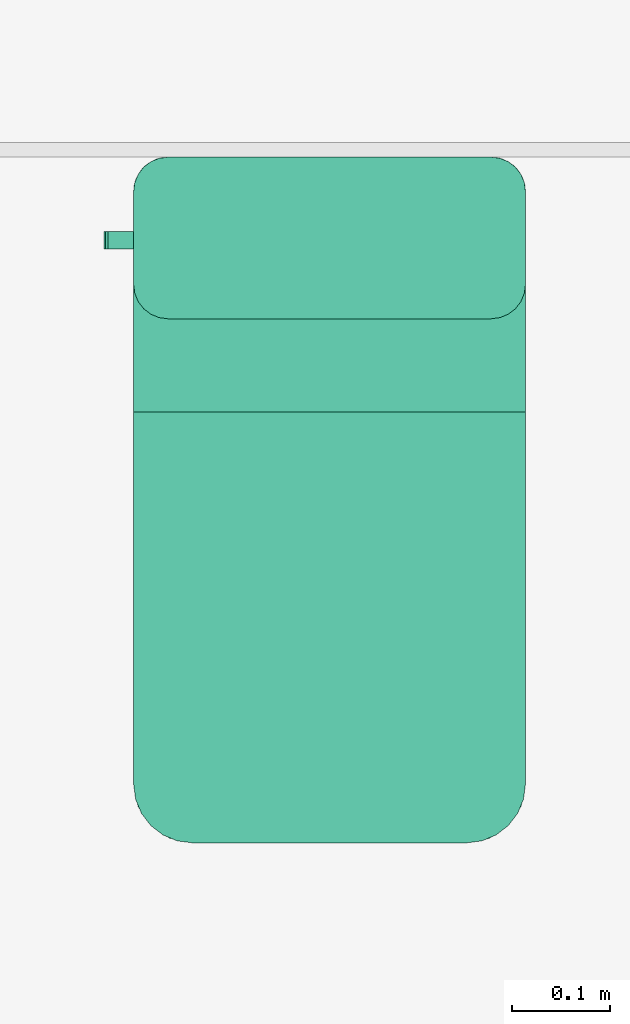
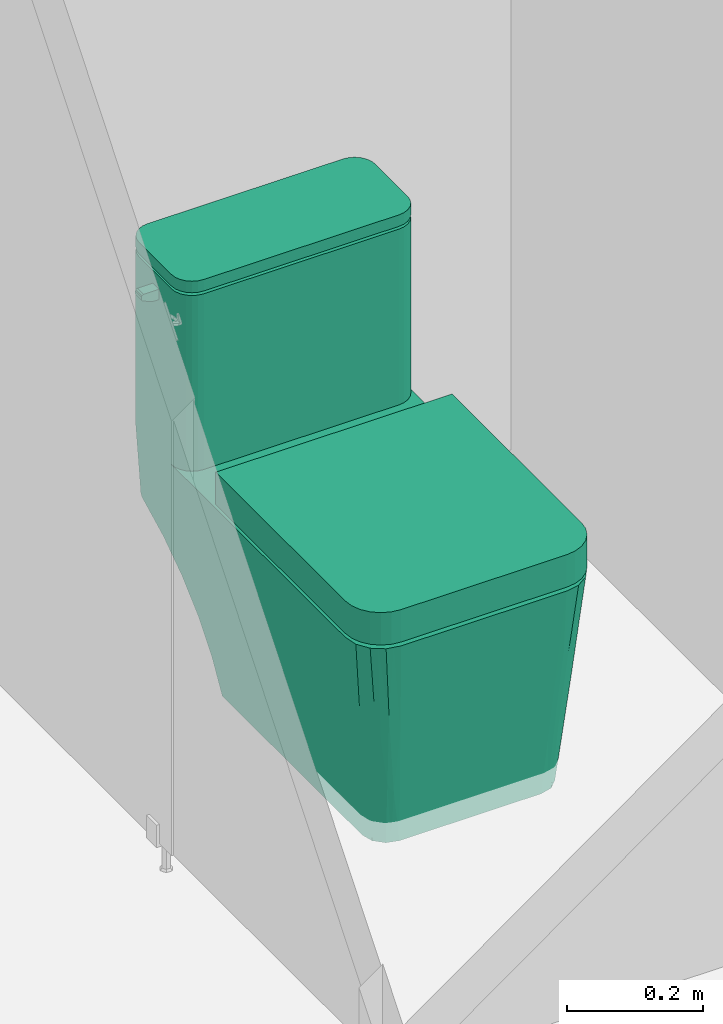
# One storey, part 75 of 81: 1 flow terminal.
"""IFC2X3 building model written with IfcOpenShell, lengths in millimetres."""

from ifc_helpers import new_model, entity, si_unit, converted_unit, derived_unit, direction, frame, origin, place, context, subcontext, project, spatial, faceted_brep, source, transform, mapped, material, material_list, type_object, type_shapes, element, save


model = new_model("IFC2X3")

# Units and contexts
model_context = context("Model", 3, precision=0.01, world=origin(), true_north=direction((6.123031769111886e-17, 1.0)))
body_context = subcontext(model_context, "Body", "Model", "MODEL_VIEW")
ifc_project = project(units=[si_unit("LENGTHUNIT", "METRE", prefix="MILLI"), si_unit("AREAUNIT", "SQUARE_METRE"), si_unit("VOLUMEUNIT", "CUBIC_METRE"), converted_unit("PLANEANGLEUNIT", "DEGREE", entity("IfcRatioMeasure", 0.017453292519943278), si_unit("PLANEANGLEUNIT", "RADIAN"), dimensions=[0, 0, 0, 0, 0, 0, 0]), si_unit("MASSUNIT", "GRAM", prefix="KILO"), derived_unit("MASSDENSITYUNIT", [(si_unit("MASSUNIT", "GRAM", prefix="KILO"), 1), (si_unit("LENGTHUNIT", "METRE"), -3)]), derived_unit("MOMENTOFINERTIAUNIT", [(si_unit("LENGTHUNIT", "METRE"), 4)]), si_unit("TIMEUNIT", "SECOND"), si_unit("FREQUENCYUNIT", "HERTZ"), si_unit("THERMODYNAMICTEMPERATUREUNIT", "DEGREE_CELSIUS"), derived_unit("THERMALTRANSMITTANCEUNIT", [(si_unit("MASSUNIT", "GRAM", prefix="KILO"), 1), (si_unit("THERMODYNAMICTEMPERATUREUNIT", "KELVIN"), -1), (si_unit("TIMEUNIT", "SECOND"), -3)]), derived_unit("VOLUMETRICFLOWRATEUNIT", [(si_unit("LENGTHUNIT", "METRE"), 3), (si_unit("TIMEUNIT", "SECOND"), -1)]), derived_unit("MASSFLOWRATEUNIT", [(si_unit("MASSUNIT", "GRAM", prefix="KILO"), 1), (si_unit("TIMEUNIT", "SECOND"), -1)]), derived_unit("ROTATIONALFREQUENCYUNIT", [(si_unit("TIMEUNIT", "SECOND"), -1)]), si_unit("ELECTRICCURRENTUNIT", "AMPERE"), si_unit("ELECTRICVOLTAGEUNIT", "VOLT"), si_unit("POWERUNIT", "WATT"), si_unit("FORCEUNIT", "NEWTON", prefix="KILO"), si_unit("ILLUMINANCEUNIT", "LUX"), si_unit("LUMINOUSFLUXUNIT", "LUMEN"), si_unit("LUMINOUSINTENSITYUNIT", "CANDELA"), derived_unit("USERDEFINED", [(si_unit("MASSUNIT", "GRAM", prefix="KILO"), -1), (si_unit("LENGTHUNIT", "METRE"), -2), (si_unit("TIMEUNIT", "SECOND"), 3), (si_unit("LUMINOUSFLUXUNIT", "LUMEN"), 1)]), derived_unit("SOUNDPOWERUNIT", [(si_unit("MASSUNIT", "GRAM", prefix="KILO"), 1), (si_unit("LENGTHUNIT", "METRE"), 2), (si_unit("TIMEUNIT", "SECOND"), -3)]), derived_unit("SOUNDPRESSUREUNIT", [(si_unit("MASSUNIT", "GRAM", prefix="KILO"), 1), (si_unit("LENGTHUNIT", "METRE"), -1), (si_unit("TIMEUNIT", "SECOND"), -2)]), derived_unit("LINEARVELOCITYUNIT", [(si_unit("LENGTHUNIT", "METRE"), 1), (si_unit("TIMEUNIT", "SECOND"), -1)]), si_unit("PRESSUREUNIT", "PASCAL"), derived_unit("USERDEFINED", [(si_unit("LENGTHUNIT", "METRE"), -2), (si_unit("MASSUNIT", "GRAM", prefix="KILO"), 1), (si_unit("TIMEUNIT", "SECOND"), -2)]), derived_unit("LINEARFORCEUNIT", [(si_unit("MASSUNIT", "GRAM", prefix="KILO"), 1), (si_unit("LENGTHUNIT", "METRE"), 1), (si_unit("TIMEUNIT", "SECOND"), -2), (si_unit("LENGTHUNIT", "METRE"), -1)]), derived_unit("PLANARFORCEUNIT", [(si_unit("MASSUNIT", "GRAM", prefix="KILO"), 1), (si_unit("LENGTHUNIT", "METRE"), 1), (si_unit("TIMEUNIT", "SECOND"), -2), (si_unit("LENGTHUNIT", "METRE"), -2)])], contexts=[model_context])

# Site, building, storey, space
site_placement = place(None, frame((-14167.972527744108, -657.2125860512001, 0.0)))
site = spatial("IfcSite", under=ifc_project, at=site_placement, Name="Default", CompositionType="ELEMENT")
building_placement = place(site_placement, origin())
building = spatial("IfcBuilding", under=site, at=building_placement, Name="Sample Building", CompositionType="ELEMENT")
storey_placement = place(building_placement, frame((0.0, 0.0, 13400.0)))
storey = spatial("IfcBuildingStorey", under=building, at=storey_placement, Name="지상 4층", CompositionType="ELEMENT", Elevation=13400.00000000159)
space_placement = place(storey_placement, origin())
space = spatial("IfcSpace", under=storey, at=space_placement, Name="221", CompositionType="ELEMENT", InteriorOrExteriorSpace="INTERNAL")

# Flow terminal
ifc_material_1 = material(Name="KBIMS-스테인리스 스틸_도금")
ifc_material_2 = material(Name="KBIMS-도기")
ifc_material_list_1 = material_list([ifc_material_1, ifc_material_2])
ifc_material_list_2 = material_list([ifc_material_1, ifc_material_2, ifc_material_2])
distribution_element_type = type_object("IfcDistributionElementType", Name="PF127-서양식 탱크일체형:PF127-서양식 탱크일체형", material=ifc_material_list_2)
shared_shape = source(origin(), body_context, "Body", "Brep", [
    faceted_brep([(-200.0, -93.78427766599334, 671.547634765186), (-226.3198216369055, -93.78427766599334, 671.5476347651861), (-228.9221007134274, -93.78427766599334, 670.469735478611), (-230.0, -93.78427766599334, 667.8674564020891), (-230.0, -93.78427766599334, 663.5153317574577), (-229.51628854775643, -93.78427766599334, 661.8557929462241), (-228.21666089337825, -93.78427766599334, 660.71605008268), (-215.9758797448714, -93.78427766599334, 655.0080800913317), (-211.766557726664, -93.78427766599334, 653.5792078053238), (-207.34774888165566, -93.78427766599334, 653.095269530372), (-200.0, -93.78427766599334, 653.095269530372), (-230.0, -75.66503821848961, 663.5153317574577), (-230.0, -75.66503821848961, 667.8674564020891), (-228.9221007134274, -75.66503821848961, 670.469735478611), (-226.31982163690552, -75.66503821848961, 671.5476347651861), (-200.0, -75.66503821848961, 671.547634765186), (-200.0, -75.66503821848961, 653.095269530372), (-207.34774888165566, -75.66503821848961, 653.095269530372), (-211.766557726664, -75.66503821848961, 653.5792078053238), (-215.97587974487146, -75.66503821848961, 655.0080800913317), (-228.21666089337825, -75.66503821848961, 660.71605008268), (-229.51628854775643, -75.66503821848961, 661.8557929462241)], [[[0, 1, 2, 3, 4, 5, 6, 7, 8, 9, 10]], [[11, 12, 13, 14, 15, 16, 17, 18, 19, 20, 21]], [[1, 14, 13, 2]], [[13, 12, 3, 2]], [[4, 3, 12, 11]], [[4, 11, 21, 5]], [[21, 20, 6, 5]], [[7, 6, 20, 19]], [[7, 19, 18, 8]], [[18, 17, 9, 8]], [[10, 9, 17, 16]], [[0, 10, 16, 15]], [[1, 0, 15, 14]]]),
    faceted_brep([(140.0, -700.0, 445.0), (155.52914270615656, -697.9555495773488, 445.0), (170.0, -691.9615242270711, 445.0), (182.42640687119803, -682.4264068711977, 445.0), (191.96152422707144, -670.0, 445.0), (197.9555495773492, -655.5291427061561, 445.0), (200.0, -640.0, 445.0), (200.0, -260.0, 445.0), (-200.0, -260.0, 445.0), (-200.0, -640.0, 445.0), (-197.95554957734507, -655.5291427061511, 445.0), (-191.96152422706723, -670.0, 445.0), (-182.42640687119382, -682.4264068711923, 445.0), (-170.0, -691.9615242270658, 445.0), (-155.52914270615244, -697.9555495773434, 445.0), (-140.0, -700.0, 445.0), (-200.0, -640.0, 386.96747142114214), (-200.0, -260.0, 386.96747142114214), (200.0, -260.0, 386.96747142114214), (200.0, -640.0, 386.96747142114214), (197.9555495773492, -655.5291427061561, 386.96747142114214), (191.96152422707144, -670.0, 386.96747142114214), (182.42640687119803, -682.4264068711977, 386.96747142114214), (170.0, -691.9615242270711, 386.96747142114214), (155.52914270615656, -697.9555495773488, 386.96747142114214), (140.0, -700.0, 386.96747142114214), (-140.0, -700.0, 386.96747142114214), (-155.52914270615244, -697.9555495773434, 386.96747142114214), (-170.0, -691.9615242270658, 386.96747142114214), (-182.42640687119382, -682.4264068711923, 386.96747142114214), (-191.96152422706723, -670.0, 386.96747142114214), (-197.95554957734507, -655.5291427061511, 386.96747142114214)], [[[0, 1, 2, 3, 4, 5, 6, 7, 8, 9, 10, 11, 12, 13, 14, 15]], [[16, 17, 18, 19, 20, 21, 22, 23, 24, 25, 26, 27, 28, 29, 30, 31]], [[1, 24, 23, 2]], [[2, 23, 22, 3]], [[25, 24, 1, 0]], [[4, 21, 20, 5]], [[5, 20, 19, 6]], [[3, 22, 21, 4]], [[7, 6, 19, 18]], [[8, 7, 18, 17]], [[9, 8, 17, 16]], [[10, 31, 30, 11]], [[11, 30, 29, 12]], [[9, 16, 31, 10]], [[13, 28, 27, 14]], [[14, 27, 26, 15]], [[12, 29, 28, 13]], [[0, 15, 26, 25]]]),
    faceted_brep([(165.0, 0.0, 694.4321747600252), (165.0, 0.0, 380.0), (164.13685378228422, 0.0, 314.40088745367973), (163.42105263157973, 0.0, 260.0), (-163.42105263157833, 0.0, 260.0), (-164.1368541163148, 0.0, 314.40091283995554), (-165.0, 0.0, 380.0), (-165.0, 0.0, 694.4321747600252), (-165.0, 0.0, 720.0), (165.0, 0.0, 720.0), (165.0, 0.0, 699.4321747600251), (-165.0, 0.0, 699.4321747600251), (200.0, -35.0, 694.4321747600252), (200.0, -130.0, 694.4321747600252), (200.0, -130.0, 380.0), (200.0, -35.0, 380.0), (200.0, -35.0, 720.0), (200.0, -130.0, 720.0), (200.0, -130.0, 699.4321747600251), (200.0, -35.0, 699.4321747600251), (-198.80740392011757, -139.05866657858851, 694.4321747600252), (-198.80740392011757, -139.0586665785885, 380.0), (-195.31088913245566, -147.5000000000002, 380.0), (-195.31088913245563, -147.50000000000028, 694.4321747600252), (-198.80740392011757, -139.05866657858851, 699.4321747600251), (-195.31088913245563, -147.50000000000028, 699.4321747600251), (-195.3108891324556, -147.50000000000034, 720.0), (-198.80740392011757, -139.05866657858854, 720.0), (-189.74873734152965, -154.74873734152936, 380.0), (-189.74873734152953, -154.74873734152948, 694.4321747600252), (-189.74873734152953, -154.74873734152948, 699.4321747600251), (-189.74873734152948, -154.74873734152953, 720.0), (-200.0, -130.0, 380.0), (-200.0, -130.0, 694.4321747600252), (-200.0, -130.0, 699.4321747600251), (-200.0, -130.0, 720.0), (-182.5000000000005, -160.31088913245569, 694.4321747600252), (-182.50000000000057, -160.31088913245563, 380.0), (-174.05866657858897, -163.80740392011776, 380.0), (-174.05866657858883, -163.8074039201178, 694.4321747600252), (-174.05866657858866, -163.80740392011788, 720.0), (-182.50000000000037, -160.31088913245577, 720.0), (-182.5000000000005, -160.31088913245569, 699.4321747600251), (-174.05866657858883, -163.8074039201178, 699.4321747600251), (-165.0, -165.0, 380.0), (-165.0, -165.0, 694.4321747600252), (-165.0, -165.0, 720.0), (-165.0, -165.0, 699.4321747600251), (165.0, -165.0, 694.4321747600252), (165.0, -165.0, 380.0), (165.0, -165.0, 720.0), (165.0, -165.0, 699.4321747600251), (-200.0, -35.0, 694.4321747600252), (-200.0, -35.0, 380.0), (-200.0, -35.0, 720.0), (-200.0, -35.0, 699.4321747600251), (198.80740392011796, -25.941333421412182, 699.4321747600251), (195.310889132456, -17.500000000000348, 699.4321747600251), (195.31088913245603, -17.500000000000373, 720.0), (198.80740392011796, -25.94133342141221, 720.0), (189.74873734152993, -10.251262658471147, 720.0), (189.74873734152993, -10.251262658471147, 699.4321747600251), (174.05866657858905, -1.1925960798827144, 699.4321747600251), (174.0586665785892, -1.192596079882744, 720.0), (182.50000000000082, -4.68911086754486, 699.4321747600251), (182.50000000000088, -4.68911086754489, 720.0), (174.05866657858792, -163.80740392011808, 694.4321747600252), (174.05866657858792, -163.80740392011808, 380.0), (182.49999999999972, -160.31088913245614, 380.0), (182.49999999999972, -160.31088913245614, 694.4321747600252), (174.05866657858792, -163.80740392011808, 699.4321747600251), (182.49999999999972, -160.31088913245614, 699.4321747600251), (182.5000000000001, -160.31088913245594, 720.0), (174.0586665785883, -163.80740392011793, 720.0), (189.74873734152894, -154.74873734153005, 380.0), (189.74873734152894, -154.74873734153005, 694.4321747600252), (189.74873734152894, -154.74873734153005, 699.4321747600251), (189.74873734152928, -154.74873734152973, 720.0), (195.31088913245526, -147.50000000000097, 694.4321747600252), (195.31088913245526, -147.50000000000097, 380.0), (198.8074039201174, -139.05866657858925, 380.0), (198.8074039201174, -139.05866657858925, 694.4321747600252), (195.31088913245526, -147.50000000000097, 699.4321747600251), (198.8074039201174, -139.05866657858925, 699.4321747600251), (198.80740392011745, -139.0586665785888, 720.0), (195.3108891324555, -147.50000000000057, 720.0), (-174.0586665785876, -1.1925960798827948, 720.0), (-174.0586665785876, -1.1925960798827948, 699.4321747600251), (-182.49999999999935, -4.689110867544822, 720.0), (-182.49999999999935, -4.689110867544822, 699.4321747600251), (-189.7487373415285, -10.251262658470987, 720.0), (-189.7487373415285, -10.251262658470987, 699.4321747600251), (-198.8074039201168, -25.941333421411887, 720.0), (-195.31088913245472, -17.50000000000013, 720.0), (-195.31088913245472, -17.50000000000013, 699.4321747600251), (-198.8074039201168, -25.941333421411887, 699.4321747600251), (-174.0586665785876, -1.192596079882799, 694.4321747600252), (-171.07672145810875, -0.5315585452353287, 380.0), (-176.96898132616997, -2.1101309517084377, 380.0), (-182.49999999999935, -4.689110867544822, 694.4321747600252), (-182.49783433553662, -4.687860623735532, 380.0), (-187.49533036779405, -8.18656844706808, 380.0), (-189.7487373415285, -10.251262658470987, 694.4321747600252), (-195.31088913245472, -17.50000000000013, 694.4321747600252), (-195.3094689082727, -17.4975403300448, 380.0), (-197.88846700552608, -23.02716666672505, 380.0), (-198.8074039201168, -25.941333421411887, 694.4321747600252), (-199.4680424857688, -28.921015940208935, 380.0), (-191.8095995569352, -12.500102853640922, 380.0), (198.80740392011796, -25.941333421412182, 694.4321747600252), (199.46810048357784, -28.92134479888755, 380.0), (197.88863680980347, -23.02763311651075, 380.0), (195.310889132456, -17.500000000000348, 694.4321747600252), (195.3097905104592, -17.498097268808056, 380.0), (191.81007551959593, -12.500669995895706, 380.0), (189.74873734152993, -10.251262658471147, 694.4321747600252), (182.50000000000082, -4.68911086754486, 694.4321747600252), (182.49858765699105, -4.6882954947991, 380.0), (176.9698186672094, -2.110435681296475, 380.0), (171.0775985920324, -0.5317131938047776, 380.0), (174.05866657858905, -1.1925960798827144, 694.4321747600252), (187.49595914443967, -8.187095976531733, 380.0), (160.0, -210.0, 0.0), (160.0, -620.0, 0.0), (156.6733983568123, -632.4150463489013, 0.0), (154.64101615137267, -640.0, 0.0), (147.3205080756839, -647.3205080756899, 0.0), (140.0, -654.6410161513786, 0.0), (132.41504577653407, -656.673398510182, 0.0), (120.0, -660.0, 0.0), (-120.0, -660.0, 0.0), (-132.4150463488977, -656.6733983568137, 0.0), (-140.0, -654.6410161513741, 0.0), (-147.32050807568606, -647.3205080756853, 0.0), (-154.64101615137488, -640.0, 0.0), (-156.67339851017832, -632.4150457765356, 0.0), (-160.0, -620.0, 0.0), (-160.0, -210.0, 0.0), (-200.0, -640.0, 380.0), (-197.71638597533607, -651.4805029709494, 380.0), (-195.43277195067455, -662.961005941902, 380.0), (-188.92958941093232, -672.6937064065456, 380.0), (-182.42640687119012, -682.4264068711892, 380.0), (-172.69370640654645, -688.9295894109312, 380.0), (-162.96100594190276, -695.4327719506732, 380.0), (-151.48050297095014, -697.7163859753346, 380.0), (-140.0, -700.0, 380.0), (140.0, -700.0, 380.0), (151.4805029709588, -697.7163859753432, 380.0), (162.9610059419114, -695.4327719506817, 380.0), (172.69370640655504, -688.9295894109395, 380.0), (182.42640687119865, -682.4264068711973, 380.0), (188.9295894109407, -672.6937064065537, 380.0), (195.4327719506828, -662.96100594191, 380.0), (197.7163859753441, -651.4805029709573, 380.0), (200.0, -640.0, 380.0), (181.88767422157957, -630.9438371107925, 207.93290510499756), (169.05616288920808, -624.5280814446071, 86.03354744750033), (166.41215116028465, -190.4623972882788, 60.91543602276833), (172.39104658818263, -161.03070825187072, 117.71494258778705), (177.76891724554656, -122.53079215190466, 168.80471383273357), (182.39485897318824, -76.04296457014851, 212.75116024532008), (186.13906689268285, -22.871683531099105, 248.32113548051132), (193.0948286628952, -28.957975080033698, 314.4008722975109), (184.4509041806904, -13.399793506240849, 253.3937042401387), (192.48236559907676, -21.712362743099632, 318.068486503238), (185.85897664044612, -18.078391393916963, 250.93098822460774), (169.4535256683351, -0.47508644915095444, 318.71364296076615), (176.81269594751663, -2.7853559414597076, 322.8232335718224), (184.85554366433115, -8.564241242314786, 317.5126549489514), (188.64536552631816, -13.805323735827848, 311.79954638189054), (181.93237214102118, -9.070973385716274, 255.5993773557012), (168.85282113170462, -0.6257823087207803, 259.7058617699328), (178.3784036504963, -5.339995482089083, 257.4452533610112), (173.94033185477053, -2.453774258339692, 258.83869964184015), (-193.09483031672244, -28.957976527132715, 314.4008880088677), (-192.48224700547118, -21.712007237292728, 318.06820833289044), (-185.85897664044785, -18.07839139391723, 250.93098822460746), (-169.4535400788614, -0.47508841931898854, 318.7138102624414), (-188.64533012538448, -13.805305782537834, 311.79916939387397), (-184.4509041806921, -13.399793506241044, 253.39370424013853), (-184.85525539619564, -8.563839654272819, 317.5148648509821), (-178.37840365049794, -5.3399954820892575, 257.44525336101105), (-181.93237214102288, -9.070973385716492, 255.59937735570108), (-186.13906689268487, -22.87168353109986, 248.32113548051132), (-176.81199260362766, -2.7850356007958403, 322.8227486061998), (-173.9403318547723, -2.4537742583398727, 258.8386996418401), (-168.85282113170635, -0.6257823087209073, 259.70586176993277), (-182.39485897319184, -76.04296457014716, 212.75116024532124), (-177.7689172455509, -122.53079215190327, 168.8047138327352), (-172.3910465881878, -161.03070825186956, 117.71494258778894), (-166.4121511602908, -190.46239728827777, 60.9154360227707), (-170.9438402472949, -625.4719201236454, 103.96648234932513), (-181.88767486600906, -630.9438374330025, 207.932911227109), (167.84723921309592, -644.8835703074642, 113.26853664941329), (182.70359618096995, -650.4613144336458, 244.34084888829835), (172.7916320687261, -658.8131569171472, 202.6373284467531), (163.28959461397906, -663.2895949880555, 167.00838556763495), (161.3612464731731, -651.454814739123, 94.73545488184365), (130.94384024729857, -681.8876804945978, 207.93296469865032), (137.1466297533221, -675.5797921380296, 155.949684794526), (142.81243148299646, -686.5857660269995, 259.99216222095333), (174.39327642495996, -671.2588406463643, 273.5041922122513), (151.45063444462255, -661.3663368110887, 94.74858838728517), (144.3377504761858, -669.7672265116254, 125.97246068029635), (152.4807217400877, -683.0768420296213, 253.0686677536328), (158.81315653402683, -672.7916326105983, 202.63733033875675), (125.47192012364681, -670.9438402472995, 103.96648234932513), (169.1268939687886, -634.5961485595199, 96.37357614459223), (-130.94383711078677, -681.8876742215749, 207.93290510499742), (-124.52808144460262, -669.056162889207, 86.03354744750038), (-144.88357030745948, -667.8472392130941, 113.26853664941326), (-150.46131443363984, -682.7035961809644, 244.34084888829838), (-158.8131569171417, -672.7916320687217, 202.6373284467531), (-163.28959498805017, -663.2895946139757, 167.00838556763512), (-151.4548147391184, -661.3612464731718, 94.73545488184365), (-175.57979213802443, -637.1466297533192, 155.94968479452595), (-186.58576602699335, -642.8124314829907, 259.99216222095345), (-171.25884064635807, -674.3932764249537, 273.50419221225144), (-161.36633681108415, -651.4506344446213, 94.74858838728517), (-169.76722651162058, -644.3377504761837, 125.97246068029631), (-172.79163261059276, -658.8131565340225, 202.63733033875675), (-134.5961485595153, -669.1268939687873, 96.37357614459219), (-183.07684202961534, -652.480721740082, 253.06866775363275), (-185.0, -150.0, 699.4321747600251), (-185.0, -15.0, 699.4321747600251), (-185.0, -15.0, 694.4321747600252), (-185.0, -150.0, 694.4321747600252), (185.0, -150.0, 699.4321747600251), (185.0, -150.0, 694.4321747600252), (185.0, -15.0, 699.4321747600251), (185.0, -15.0, 694.4321747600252)], [[[0, 1, 2, 3, 4, 5, 6, 7]], [[8, 9, 10, 11]], [[12, 13, 14, 15]], [[16, 17, 18, 19]], [[20, 21, 22, 23]], [[24, 25, 26, 27]], [[23, 22, 28, 29]], [[25, 30, 31, 26]], [[32, 21, 20, 33]], [[34, 24, 27, 35]], [[36, 37, 38, 39]], [[40, 41, 42, 43]], [[39, 38, 44, 45]], [[46, 40, 43, 47]], [[29, 28, 37, 36]], [[30, 42, 41, 31]], [[48, 45, 44, 49]], [[50, 46, 47, 51]], [[33, 52, 53, 32]], [[35, 54, 55, 34]], [[56, 57, 58, 59]], [[19, 56, 59, 16]], [[60, 58, 57, 61]], [[62, 10, 9, 63]], [[64, 62, 63, 65]], [[61, 64, 65, 60]], [[66, 67, 68, 69]], [[70, 71, 72, 73]], [[69, 68, 74, 75]], [[71, 76, 77, 72]], [[49, 67, 66, 48]], [[51, 70, 73, 50]], [[78, 79, 80, 81]], [[82, 83, 84, 85]], [[81, 80, 14, 13]], [[83, 18, 17, 84]], [[75, 74, 79, 78]], [[76, 82, 85, 77]], [[86, 8, 11, 87]], [[88, 86, 87, 89]], [[90, 88, 89, 91]], [[92, 93, 94, 95]], [[54, 92, 95, 55]], [[91, 94, 93, 90]], [[9, 8, 86, 88, 90, 93, 92, 54, 35, 27, 26, 31, 41, 40, 46, 50, 73, 72, 77, 85, 84, 17, 16, 59, 58, 60, 65, 63]], [[96, 97, 98]], [[99, 98, 100]], [[99, 100, 101]], [[6, 97, 7]], [[7, 97, 96]], [[98, 99, 96]], [[101, 102, 99]], [[103, 104, 105]], [[106, 105, 107]], [[52, 107, 53]], [[102, 108, 103]], [[108, 102, 101]], [[104, 103, 108]], [[105, 106, 103]], [[107, 52, 106]], [[109, 110, 111]], [[112, 111, 113]], [[112, 113, 114]], [[15, 110, 12]], [[12, 110, 109]], [[111, 112, 109]], [[114, 115, 112]], [[116, 117, 118]], [[118, 119, 120]], [[1, 0, 119]], [[115, 121, 116]], [[121, 115, 114]], [[117, 116, 121]], [[118, 120, 116]], [[119, 0, 120]], [[122, 123, 124, 125, 126, 127, 128, 129, 130, 131, 132, 133, 134, 135, 136, 137]], [[21, 32, 138, 139, 140, 141, 142, 143, 144, 145, 146, 147, 148, 149, 150, 151, 152, 153, 154, 155, 14, 80, 79, 74, 68, 67, 49, 44, 38, 37, 28, 22]], [[14, 155, 156, 157, 123, 122, 158, 159, 160, 161, 162, 163, 15]], [[164, 165, 166]], [[1, 119, 167]], [[118, 117, 168]], [[169, 170, 171]], [[121, 169, 168]], [[117, 121, 168]], [[2, 1, 167, 3]], [[170, 114, 113]], [[172, 167, 168]], [[110, 15, 163]], [[173, 174, 168]], [[171, 173, 169]], [[114, 169, 121]], [[111, 165, 170]], [[111, 110, 165]], [[3, 167, 172]], [[165, 163, 166]], [[168, 169, 173]], [[169, 114, 170]], [[172, 168, 174]], [[171, 170, 164]], [[164, 170, 165]], [[168, 167, 118]], [[166, 163, 162]], [[163, 165, 110]], [[167, 119, 118]], [[170, 113, 111]], [[175, 176, 177]], [[98, 97, 178]], [[176, 105, 179]], [[176, 179, 180]], [[108, 181, 179]], [[182, 183, 181]], [[175, 107, 176]], [[6, 5, 4, 178]], [[184, 175, 177]], [[176, 180, 177]], [[182, 185, 186]], [[179, 183, 180]], [[105, 104, 179]], [[101, 181, 108]], [[185, 100, 98]], [[185, 98, 178]], [[185, 178, 187]], [[97, 6, 178]], [[101, 100, 185]], [[181, 101, 185]], [[107, 105, 176]], [[185, 182, 181]], [[185, 187, 186]], [[175, 53, 107]], [[178, 4, 187]], [[181, 183, 179]], [[179, 104, 108]], [[138, 32, 53, 175, 184, 188, 189, 190, 191, 137, 136, 192, 193]], [[194, 195, 196]], [[197, 126, 198]], [[199, 200, 201]], [[156, 154, 195]], [[202, 152, 151]], [[196, 152, 202]], [[127, 203, 204]], [[194, 198, 125]], [[150, 205, 206]], [[203, 206, 204]], [[124, 194, 125]], [[198, 194, 196]], [[200, 199, 207]], [[123, 157, 156, 208]], [[194, 124, 208]], [[206, 197, 202]], [[194, 208, 195]], [[150, 202, 151]], [[156, 195, 208]], [[123, 208, 124]], [[126, 197, 203]], [[197, 198, 196]], [[126, 125, 198]], [[202, 197, 196]], [[197, 206, 203]], [[127, 204, 128]], [[126, 203, 127]], [[206, 205, 204]], [[202, 150, 206]], [[128, 204, 200]], [[195, 152, 196]], [[148, 205, 149]], [[152, 195, 153]], [[205, 148, 201]], [[128, 200, 207]], [[205, 201, 200]], [[129, 128, 207]], [[205, 200, 204]], [[147, 199, 201]], [[154, 156, 155]], [[154, 153, 195]], [[149, 205, 150]], [[148, 147, 201]], [[146, 209, 210, 130, 129, 207, 199, 147]], [[211, 212, 213]], [[214, 133, 215]], [[193, 216, 217]], [[209, 145, 212]], [[218, 143, 142]], [[213, 143, 218]], [[134, 219, 220]], [[211, 215, 132]], [[142, 141, 218]], [[219, 221, 220]], [[131, 211, 132]], [[215, 211, 213]], [[216, 193, 192]], [[130, 210, 209, 222]], [[211, 131, 222]], [[221, 214, 218]], [[211, 222, 212]], [[218, 141, 221]], [[209, 212, 222]], [[130, 222, 131]], [[133, 214, 219]], [[214, 215, 213]], [[133, 132, 215]], [[218, 214, 213]], [[214, 221, 219]], [[134, 220, 135]], [[133, 219, 134]], [[221, 223, 220]], [[141, 223, 221]], [[135, 220, 216]], [[212, 143, 213]], [[223, 141, 140]], [[143, 212, 144]], [[223, 139, 217]], [[135, 216, 192]], [[223, 217, 216]], [[136, 135, 192]], [[223, 216, 220]], [[138, 193, 217]], [[145, 209, 146]], [[145, 144, 212]], [[139, 223, 140]], [[139, 138, 217]], [[186, 187, 4]], [[182, 186, 4]], [[4, 180, 183]], [[182, 4, 183]], [[4, 3, 162, 184]], [[172, 174, 3]], [[173, 3, 174]], [[171, 3, 173]], [[164, 3, 171]], [[164, 166, 3]], [[162, 3, 166]], [[177, 180, 4]], [[184, 162, 161, 188]], [[190, 189, 160, 159]], [[160, 189, 188, 161]], [[191, 190, 159, 158]], [[191, 158, 122, 137]], [[177, 4, 184]], [[224, 225, 226, 227]], [[228, 224, 227, 229]], [[230, 228, 229, 231]], [[225, 230, 231, 226]], [[78, 81, 229]], [[229, 75, 78]], [[81, 13, 229]], [[231, 229, 13]], [[13, 12, 231]], [[12, 109, 231]], [[231, 109, 112]], [[112, 115, 231]], [[115, 116, 231]], [[120, 231, 116]], [[231, 120, 0]], [[231, 0, 226]], [[226, 0, 7]], [[226, 7, 96]], [[96, 99, 226]], [[102, 226, 99]], [[103, 226, 102]], [[226, 103, 106]], [[106, 52, 226]], [[33, 226, 52]], [[33, 227, 226]], [[20, 227, 33]], [[23, 227, 20]], [[29, 227, 23]], [[29, 36, 227]], [[39, 227, 36]], [[227, 39, 45]], [[48, 227, 45]], [[229, 48, 66]], [[48, 229, 227]], [[66, 69, 229]], [[75, 229, 69]], [[57, 56, 230]], [[230, 61, 57]], [[56, 19, 230]], [[228, 230, 19]], [[19, 18, 228]], [[18, 83, 228]], [[228, 83, 82]], [[82, 76, 228]], [[76, 71, 228]], [[70, 228, 71]], [[228, 70, 51]], [[224, 228, 51]], [[51, 47, 224]], [[224, 47, 43]], [[43, 42, 224]], [[30, 224, 42]], [[25, 224, 30]], [[224, 25, 24]], [[24, 34, 224]], [[55, 224, 34]], [[55, 225, 224]], [[95, 225, 55]], [[94, 225, 95]], [[91, 225, 94]], [[91, 89, 225]], [[87, 225, 89]], [[225, 87, 11]], [[10, 225, 11]], [[230, 10, 62]], [[230, 225, 10]], [[62, 64, 230]], [[61, 230, 64]]]),
])
type_shapes(distribution_element_type, [shared_shape])
flow_terminal_placement = place(space_placement, frame((40287.963755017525, 25397.212300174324, 0.0)))
element("IfcFlowTerminal", 1, at=flow_terminal_placement, inside=space, type_object=distribution_element_type, material=ifc_material_list_1, Name="PF127-서양식 탱크일체형:PF127-서양식 탱크일체형", ObjectType="PF127-서양식 탱크일체형:PF127-서양식 탱크일체형", context=body_context, shape_type="MappedRepresentation", body=[
    mapped(shared_shape, transform((0.0, 0.0, 0.0), scale=1.0)),
])

save(model, "model.ifc")
